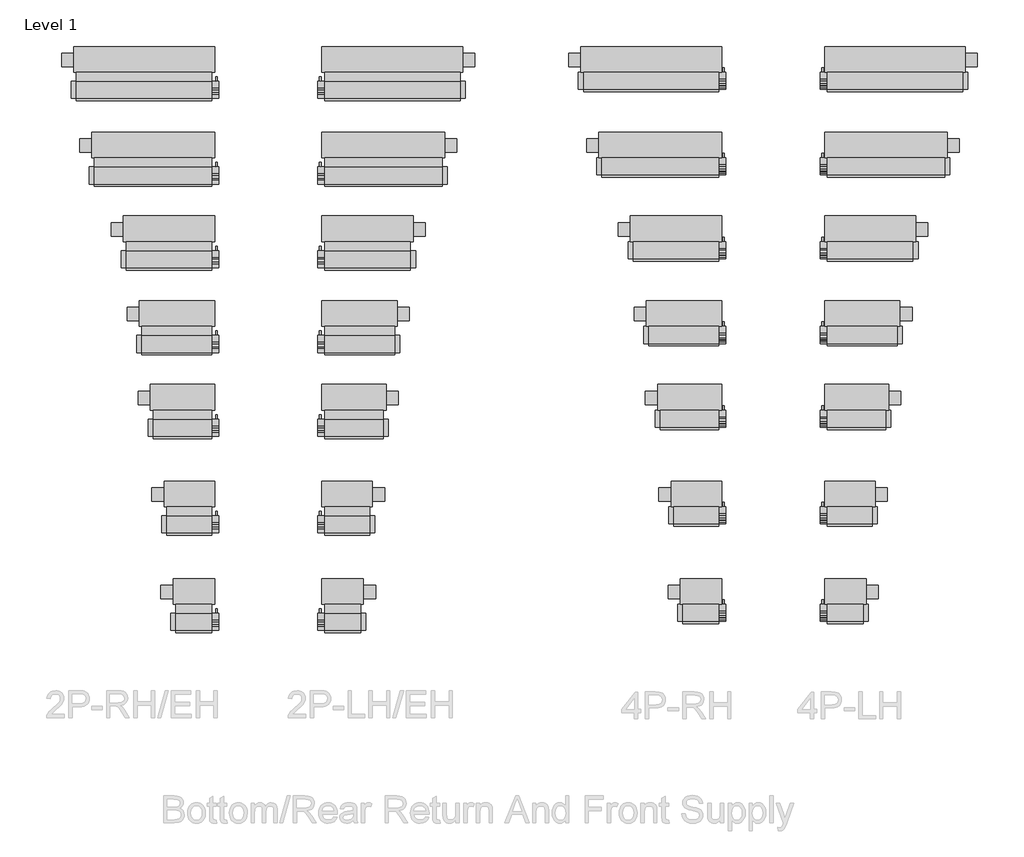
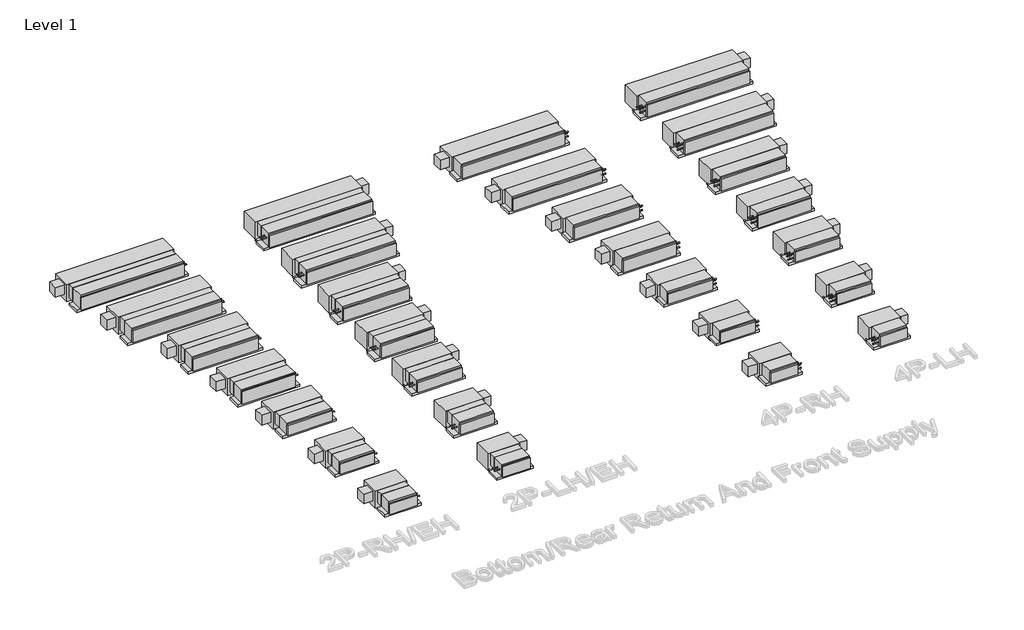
# One storey, part 1 of 3: 28 proxies.
"""IFC4 building model written with IfcOpenShell, lengths in millimetres."""

from ifc_helpers import new_model, si_unit, origin, place, context, project, spatial, transform, mapped, element, save
from components import mechanical_equipment_2c58ff9c, mechanical_equipment_dbd0a457, mechanical_equipment_982cb244, mechanical_equipment_46581fb9, mechanical_equipment_dd5e6935, mechanical_equipment_717de6e5, mechanical_equipment_81d391ec, mechanical_equipment_a687720b, mechanical_equipment_08db4194, mechanical_equipment_8c191ef6, mechanical_equipment_919ceedd, mechanical_equipment_1d446d9b, mechanical_equipment_46e83e5c, mechanical_equipment_7e0143f6, mechanical_equipment_1baa1dd7, mechanical_equipment_f801dd8a, mechanical_equipment_7525bac5, mechanical_equipment_14cabf0f, mechanical_equipment_54f2e379, mechanical_equipment_0a656818, mechanical_equipment_ed98e714, mechanical_equipment_2be2fe06, mechanical_equipment_dfb2fcc3, mechanical_equipment_8f8ee0ab, mechanical_equipment_13e381cf, mechanical_equipment_f25f2b1d, mechanical_equipment_5f8825c9, mechanical_equipment_84dba4f3

model = new_model("IFC4")

# Units and contexts
model_context = context("Model", 3, world=origin())
ifc_project = project(units=[si_unit("LENGTHUNIT", "METRE", prefix="MILLI")], contexts=[model_context])

# Site, building, storey
site = spatial("IfcSite", under=ifc_project)
building = spatial("IfcBuilding", under=site)
storey = spatial("IfcBuildingStorey", under=building, Name="Level 1", Elevation=0.0)

# Proxies
placement = place(None, origin())
mechanical_equipment_shape = mechanical_equipment_2c58ff9c(model_context)
element("IfcBuildingElementProxy", 1, Name="Concealed_Horizontal_Fan_Coil_Unit_With_Plenum_-_42CEA_-_CARRIER_-_2-Pipe_Cool-EHeat_RH_2022 : Size 02 - 277v/60Hz/1Ph - 4 Row 2.0kW", ObjectType="Concealed_Horizontal_Fan_Coil_Unit_With_Plenum_-_42CEA_-_CARRIER_-_2-Pipe_Cool-EHeat_RH_2022 : Size 02 - 277v/60Hz/1Ph - 4 Row 2.0kW", at=placement, inside=storey, context=model_context, shape_type="MappedRepresentation", body=[
    mapped(mechanical_equipment_shape, transform((-17623.5400592, 2137.0905121, 0.0), x_axis=(1.0, 0.0, 0.0), y_axis=(0.0, 1.0, 0.0), z_axis=(0.0, 0.0, 1.0))),
])
mechanical_equipment_2_shape = mechanical_equipment_dbd0a457(model_context)
element("IfcBuildingElementProxy", 2, Name="Concealed_Horizontal_Fan_Coil_Unit_With_Plenum_-_42CEA_-_CARRIER_-_2-Pipe_Cool-EHeat_RH_2022 : Size 03 - 277v/60Hz/1Ph - 4 Row 3.0kW", ObjectType="Concealed_Horizontal_Fan_Coil_Unit_With_Plenum_-_42CEA_-_CARRIER_-_2-Pipe_Cool-EHeat_RH_2022 : Size 03 - 277v/60Hz/1Ph - 4 Row 3.0kW", at=placement, inside=storey, context=model_context, shape_type="MappedRepresentation", body=[
    mapped(mechanical_equipment_2_shape, transform((-17674.3400592, 3234.3867946, 0.0), x_axis=(1.0, 0.0, 0.0), y_axis=(0.0, 1.0, 0.0), z_axis=(0.0, 0.0, 1.0))),
])
mechanical_equipment_3_shape = mechanical_equipment_982cb244(model_context)
element("IfcBuildingElementProxy", 3, Name="Concealed_Horizontal_Fan_Coil_Unit_With_Plenum_-_42CEA_-_CARRIER_-_2-Pipe_Cool-EHeat_RH_2022 : Size 04 - 277v/60Hz/1Ph - 4 Row 3.0kW", ObjectType="Concealed_Horizontal_Fan_Coil_Unit_With_Plenum_-_42CEA_-_CARRIER_-_2-Pipe_Cool-EHeat_RH_2022 : Size 04 - 277v/60Hz/1Ph - 4 Row 3.0kW", at=placement, inside=storey, context=model_context, shape_type="MappedRepresentation", body=[
    mapped(mechanical_equipment_3_shape, transform((-17750.5400592, 4321.4279718, 0.0), x_axis=(1.0, 0.0, 0.0), y_axis=(0.0, 1.0, 0.0), z_axis=(0.0, 0.0, 1.0))),
])
mechanical_equipment_4_shape = mechanical_equipment_46581fb9(model_context)
element("IfcBuildingElementProxy", 4, Name="Concealed_Horizontal_Fan_Coil_Unit_With_Plenum_-_42CEA_-_CARRIER_-_2-Pipe_Cool-EHeat_RH_2022 : Size 06 - 277v/60Hz/1Ph - 4 Row 6.0kW", ObjectType="Concealed_Horizontal_Fan_Coil_Unit_With_Plenum_-_42CEA_-_CARRIER_-_2-Pipe_Cool-EHeat_RH_2022 : Size 06 - 277v/60Hz/1Ph - 4 Row 6.0kW", at=placement, inside=storey, context=model_context, shape_type="MappedRepresentation", body=[
    mapped(mechanical_equipment_4_shape, transform((-17814.0400592, 5264.8976727, 0.0), x_axis=(1.0, 0.0, 0.0), y_axis=(0.0, 1.0, 0.0), z_axis=(0.0, 0.0, 1.0))),
])
mechanical_equipment_5_shape = mechanical_equipment_dd5e6935(model_context)
element("IfcBuildingElementProxy", 5, Name="Concealed_Horizontal_Fan_Coil_Unit_With_Plenum_-_42CEA_-_CARRIER_-_2-Pipe_Cool-EHeat_RH_2022 : Size 08 - 277v/60Hz/1Ph - 4 Row 6.0kW", ObjectType="Concealed_Horizontal_Fan_Coil_Unit_With_Plenum_-_42CEA_-_CARRIER_-_2-Pipe_Cool-EHeat_RH_2022 : Size 08 - 277v/60Hz/1Ph - 4 Row 6.0kW", at=placement, inside=storey, context=model_context, shape_type="MappedRepresentation", body=[
    mapped(mechanical_equipment_5_shape, transform((-17902.9400592, 6218.622479, 0.0), x_axis=(1.0, 0.0, 0.0), y_axis=(0.0, 1.0, 0.0), z_axis=(0.0, 0.0, 1.0))),
])
mechanical_equipment_6_shape = mechanical_equipment_717de6e5(model_context)
element("IfcBuildingElementProxy", 6, Name="Concealed_Horizontal_Fan_Coil_Unit_With_Plenum_-_42CEA_-_CARRIER_-_2-Pipe_Cool-EHeat_RH_2022 : Size 10 - 277v/60Hz/1Ph - 4 Row 8.0kW", ObjectType="Concealed_Horizontal_Fan_Coil_Unit_With_Plenum_-_42CEA_-_CARRIER_-_2-Pipe_Cool-EHeat_RH_2022 : Size 10 - 277v/60Hz/1Ph - 4 Row 8.0kW", at=placement, inside=storey, context=model_context, shape_type="MappedRepresentation", body=[
    mapped(mechanical_equipment_6_shape, transform((-18080.7400592, 7162.0921799, 0.0), x_axis=(1.0, 0.0, 0.0), y_axis=(0.0, 1.0, 0.0), z_axis=(0.0, 0.0, 1.0))),
])
mechanical_equipment_7_shape = mechanical_equipment_81d391ec(model_context)
element("IfcBuildingElementProxy", 7, Name="Concealed_Horizontal_Fan_Coil_Unit_With_Plenum_-_42CEA_-_CARRIER_-_2-Pipe_Cool-EHeat_RH_2022 : Size 12 - 277v/60Hz/1Ph - 4 Row 10.0kW", ObjectType="Concealed_Horizontal_Fan_Coil_Unit_With_Plenum_-_42CEA_-_CARRIER_-_2-Pipe_Cool-EHeat_RH_2022 : Size 12 - 277v/60Hz/1Ph - 4 Row 10.0kW", at=placement, inside=storey, context=model_context, shape_type="MappedRepresentation", body=[
    mapped(mechanical_equipment_7_shape, transform((-18182.3400592, 8125.1210373, 0.0), x_axis=(1.0, 0.0, 0.0), y_axis=(0.0, 1.0, 0.0), z_axis=(0.0, 0.0, 1.0))),
])
mechanical_equipment_8_shape = mechanical_equipment_a687720b(model_context)
element("IfcBuildingElementProxy", 8, Name="Concealed_Horizontal_Fan_Coil_Unit_With_Plenum_-_42CEA_-_CARRIER_-_4-Pipe_RH_2022 : Size 02 - 277v/60Hz/1Ph - 4/1 Coil", ObjectType="Concealed_Horizontal_Fan_Coil_Unit_With_Plenum_-_42CEA_-_CARRIER_-_4-Pipe_RH_2022 : Size 02 - 277v/60Hz/1Ph - 4/1 Coil", at=placement, inside=storey, context=model_context, shape_type="MappedRepresentation", body=[
    mapped(mechanical_equipment_8_shape, transform((-11916.0045416, 2238.6905121, 0.0), x_axis=(1.0, 0.0, 0.0), y_axis=(0.0, 1.0, 0.0), z_axis=(0.0, 0.0, 1.0))),
])
mechanical_equipment_9_shape = mechanical_equipment_08db4194(model_context)
element("IfcBuildingElementProxy", 9, Name="Concealed_Horizontal_Fan_Coil_Unit_With_Plenum_-_42CEA_-_CARRIER_-_4-Pipe_RH_2022 : Size 03 - 277v/60Hz/1Ph - 4/1 Coil", ObjectType="Concealed_Horizontal_Fan_Coil_Unit_With_Plenum_-_42CEA_-_CARRIER_-_4-Pipe_RH_2022 : Size 03 - 277v/60Hz/1Ph - 4/1 Coil", at=placement, inside=storey, context=model_context, shape_type="MappedRepresentation", body=[
    mapped(mechanical_equipment_9_shape, transform((-11966.8045416, 3335.9867946, 0.0), x_axis=(1.0, 0.0, 0.0), y_axis=(0.0, 1.0, 0.0), z_axis=(0.0, 0.0, 1.0))),
])
mechanical_equipment_10_shape = mechanical_equipment_8c191ef6(model_context)
element("IfcBuildingElementProxy", 10, Name="Concealed_Horizontal_Fan_Coil_Unit_With_Plenum_-_42CEA_-_CARRIER_-_4-Pipe_RH_2022 : Size 04 - 277v/60Hz/1Ph - 4/1 Coil", ObjectType="Concealed_Horizontal_Fan_Coil_Unit_With_Plenum_-_42CEA_-_CARRIER_-_4-Pipe_RH_2022 : Size 04 - 277v/60Hz/1Ph - 4/1 Coil", at=placement, inside=storey, context=model_context, shape_type="MappedRepresentation", body=[
    mapped(mechanical_equipment_10_shape, transform((-12043.0045416, 4423.0279718, 0.0), x_axis=(1.0, 0.0, 0.0), y_axis=(0.0, 1.0, 0.0), z_axis=(0.0, 0.0, 1.0))),
])
mechanical_equipment_11_shape = mechanical_equipment_919ceedd(model_context)
element("IfcBuildingElementProxy", 11, Name="Concealed_Horizontal_Fan_Coil_Unit_With_Plenum_-_42CEA_-_CARRIER_-_4-Pipe_RH_2022 : Size 06 - 277v/60Hz/1Ph - 4/1 Coil", ObjectType="Concealed_Horizontal_Fan_Coil_Unit_With_Plenum_-_42CEA_-_CARRIER_-_4-Pipe_RH_2022 : Size 06 - 277v/60Hz/1Ph - 4/1 Coil", at=placement, inside=storey, context=model_context, shape_type="MappedRepresentation", body=[
    mapped(mechanical_equipment_11_shape, transform((-12106.5045416, 5366.4976727, 0.0), x_axis=(1.0, 0.0, 0.0), y_axis=(0.0, 1.0, 0.0), z_axis=(0.0, 0.0, 1.0))),
])
mechanical_equipment_12_shape = mechanical_equipment_1d446d9b(model_context)
element("IfcBuildingElementProxy", 12, Name="Concealed_Horizontal_Fan_Coil_Unit_With_Plenum_-_42CEA_-_CARRIER_-_4-Pipe_RH_2022 : Size 08 - 277v/60Hz/1Ph - 4/1 Coil", ObjectType="Concealed_Horizontal_Fan_Coil_Unit_With_Plenum_-_42CEA_-_CARRIER_-_4-Pipe_RH_2022 : Size 08 - 277v/60Hz/1Ph - 4/1 Coil", at=placement, inside=storey, context=model_context, shape_type="MappedRepresentation", body=[
    mapped(mechanical_equipment_12_shape, transform((-12195.4045416, 6320.222479, 0.0), x_axis=(1.0, 0.0, 0.0), y_axis=(0.0, 1.0, 0.0), z_axis=(0.0, 0.0, 1.0))),
])
mechanical_equipment_13_shape = mechanical_equipment_46e83e5c(model_context)
element("IfcBuildingElementProxy", 13, Name="Concealed_Horizontal_Fan_Coil_Unit_With_Plenum_-_42CEA_-_CARRIER_-_4-Pipe_RH_2022 : Size 10 - 277v/60Hz/1Ph - 4/1 Coil", ObjectType="Concealed_Horizontal_Fan_Coil_Unit_With_Plenum_-_42CEA_-_CARRIER_-_4-Pipe_RH_2022 : Size 10 - 277v/60Hz/1Ph - 4/1 Coil", at=placement, inside=storey, context=model_context, shape_type="MappedRepresentation", body=[
    mapped(mechanical_equipment_13_shape, transform((-12373.2045416, 7263.6921799, 0.0), x_axis=(1.0, 0.0, 0.0), y_axis=(0.0, 1.0, 0.0), z_axis=(0.0, 0.0, 1.0))),
])
mechanical_equipment_14_shape = mechanical_equipment_7e0143f6(model_context)
element("IfcBuildingElementProxy", 14, Name="Concealed_Horizontal_Fan_Coil_Unit_With_Plenum_-_42CEA_-_CARRIER_-_4-Pipe_RH_2022 : Size 12 - 277v/60Hz/1Ph - 4/1 Coil", ObjectType="Concealed_Horizontal_Fan_Coil_Unit_With_Plenum_-_42CEA_-_CARRIER_-_4-Pipe_RH_2022 : Size 12 - 277v/60Hz/1Ph - 4/1 Coil", at=placement, inside=storey, context=model_context, shape_type="MappedRepresentation", body=[
    mapped(mechanical_equipment_14_shape, transform((-12474.8045416, 8226.7210373, 0.0), x_axis=(1.0, 0.0, 0.0), y_axis=(0.0, 1.0, 0.0), z_axis=(0.0, 0.0, 1.0))),
])
mechanical_equipment_15_shape = mechanical_equipment_1baa1dd7(model_context)
element("IfcBuildingElementProxy", 15, Name="Concealed_Horizontal_Fan_Coil_Unit_With_Plenum_-_42CEA_-_CARRIER_-_2-Pipe_Cool-EHeat_LH_2022 : Size 02 - 277v/60Hz/1Ph - 4 Row 2.0kW", ObjectType="Concealed_Horizontal_Fan_Coil_Unit_With_Plenum_-_42CEA_-_CARRIER_-_2-Pipe_Cool-EHeat_LH_2022 : Size 02 - 277v/60Hz/1Ph - 4 Row 2.0kW", at=placement, inside=storey, context=model_context, shape_type="MappedRepresentation", body=[
    mapped(mechanical_equipment_15_shape, transform((-15947.1400592, 2137.0905121, 0.0), x_axis=(1.0, 0.0, 0.0), y_axis=(0.0, 1.0, 0.0), z_axis=(0.0, 0.0, 1.0))),
])
mechanical_equipment_16_shape = mechanical_equipment_f801dd8a(model_context)
element("IfcBuildingElementProxy", 16, Name="Concealed_Horizontal_Fan_Coil_Unit_With_Plenum_-_42CEA_-_CARRIER_-_2-Pipe_Cool-EHeat_LH_2022 : Size 03 - 277v/60Hz/1Ph - 4 Row 3.0kW", ObjectType="Concealed_Horizontal_Fan_Coil_Unit_With_Plenum_-_42CEA_-_CARRIER_-_2-Pipe_Cool-EHeat_LH_2022 : Size 03 - 277v/60Hz/1Ph - 4 Row 3.0kW", at=placement, inside=storey, context=model_context, shape_type="MappedRepresentation", body=[
    mapped(mechanical_equipment_16_shape, transform((-15896.3400592, 3234.3867946, 0.0), x_axis=(1.0, 0.0, 0.0), y_axis=(0.0, 1.0, 0.0), z_axis=(0.0, 0.0, 1.0))),
])
mechanical_equipment_17_shape = mechanical_equipment_7525bac5(model_context)
element("IfcBuildingElementProxy", 17, Name="Concealed_Horizontal_Fan_Coil_Unit_With_Plenum_-_42CEA_-_CARRIER_-_2-Pipe_Cool-EHeat_LH_2022 : Size 04 - 277v/60Hz/1Ph - 4 Row 3.0kW", ObjectType="Concealed_Horizontal_Fan_Coil_Unit_With_Plenum_-_42CEA_-_CARRIER_-_2-Pipe_Cool-EHeat_LH_2022 : Size 04 - 277v/60Hz/1Ph - 4 Row 3.0kW", at=placement, inside=storey, context=model_context, shape_type="MappedRepresentation", body=[
    mapped(mechanical_equipment_17_shape, transform((-15820.1400592, 4321.4279718, 0.0), x_axis=(1.0, 0.0, 0.0), y_axis=(0.0, 1.0, 0.0), z_axis=(0.0, 0.0, 1.0))),
])
mechanical_equipment_18_shape = mechanical_equipment_14cabf0f(model_context)
element("IfcBuildingElementProxy", 18, Name="Concealed_Horizontal_Fan_Coil_Unit_With_Plenum_-_42CEA_-_CARRIER_-_2-Pipe_Cool-EHeat_LH_2022 : Size 06 - 277v/60Hz/1Ph - 4 Row 6.0kW", ObjectType="Concealed_Horizontal_Fan_Coil_Unit_With_Plenum_-_42CEA_-_CARRIER_-_2-Pipe_Cool-EHeat_LH_2022 : Size 06 - 277v/60Hz/1Ph - 4 Row 6.0kW", at=placement, inside=storey, context=model_context, shape_type="MappedRepresentation", body=[
    mapped(mechanical_equipment_18_shape, transform((-15756.6400592, 5264.8976727, 0.0), x_axis=(1.0, 0.0, 0.0), y_axis=(0.0, 1.0, 0.0), z_axis=(0.0, 0.0, 1.0))),
])
mechanical_equipment_19_shape = mechanical_equipment_54f2e379(model_context)
element("IfcBuildingElementProxy", 19, Name="Concealed_Horizontal_Fan_Coil_Unit_With_Plenum_-_42CEA_-_CARRIER_-_2-Pipe_Cool-EHeat_LH_2022 : Size 08 - 277v/60Hz/1Ph - 4 Row 6.0kW", ObjectType="Concealed_Horizontal_Fan_Coil_Unit_With_Plenum_-_42CEA_-_CARRIER_-_2-Pipe_Cool-EHeat_LH_2022 : Size 08 - 277v/60Hz/1Ph - 4 Row 6.0kW", at=placement, inside=storey, context=model_context, shape_type="MappedRepresentation", body=[
    mapped(mechanical_equipment_19_shape, transform((-15667.7400592, 6218.622479, 0.0), x_axis=(1.0, 0.0, 0.0), y_axis=(0.0, 1.0, 0.0), z_axis=(0.0, 0.0, 1.0))),
])
mechanical_equipment_20_shape = mechanical_equipment_0a656818(model_context)
element("IfcBuildingElementProxy", 20, Name="Concealed_Horizontal_Fan_Coil_Unit_With_Plenum_-_42CEA_-_CARRIER_-_2-Pipe_Cool-EHeat_LH_2022 : Size 10 - 277v/60Hz/1Ph - 4 Row 8.0kW", ObjectType="Concealed_Horizontal_Fan_Coil_Unit_With_Plenum_-_42CEA_-_CARRIER_-_2-Pipe_Cool-EHeat_LH_2022 : Size 10 - 277v/60Hz/1Ph - 4 Row 8.0kW", at=placement, inside=storey, context=model_context, shape_type="MappedRepresentation", body=[
    mapped(mechanical_equipment_20_shape, transform((-15489.9400592, 7162.0921799, 0.0), x_axis=(1.0, 0.0, 0.0), y_axis=(0.0, 1.0, 0.0), z_axis=(0.0, 0.0, 1.0))),
])
mechanical_equipment_21_shape = mechanical_equipment_ed98e714(model_context)
element("IfcBuildingElementProxy", 21, Name="Concealed_Horizontal_Fan_Coil_Unit_With_Plenum_-_42CEA_-_CARRIER_-_2-Pipe_Cool-EHeat_LH_2022 : Size 12 - 277v/60Hz/1Ph - 4 Row 10.0kW", ObjectType="Concealed_Horizontal_Fan_Coil_Unit_With_Plenum_-_42CEA_-_CARRIER_-_2-Pipe_Cool-EHeat_LH_2022 : Size 12 - 277v/60Hz/1Ph - 4 Row 10.0kW", at=placement, inside=storey, context=model_context, shape_type="MappedRepresentation", body=[
    mapped(mechanical_equipment_21_shape, transform((-15388.3400592, 8125.1210373, 0.0), x_axis=(1.0, 0.0, 0.0), y_axis=(0.0, 1.0, 0.0), z_axis=(0.0, 0.0, 1.0))),
])
mechanical_equipment_22_shape = mechanical_equipment_2be2fe06(model_context)
element("IfcBuildingElementProxy", 22, Name="Concealed_Horizontal_Fan_Coil_Unit_With_Plenum_-_42CEA_-_CARRIER_-_4-Pipe_LH_2022 : Size 02 - 277v/60Hz/1Ph - 4/1 Coil", ObjectType="Concealed_Horizontal_Fan_Coil_Unit_With_Plenum_-_42CEA_-_CARRIER_-_4-Pipe_LH_2022 : Size 02 - 277v/60Hz/1Ph - 4/1 Coil", at=placement, inside=storey, context=model_context, shape_type="MappedRepresentation", body=[
    mapped(mechanical_equipment_22_shape, transform((-10290.4045416, 2238.6905121, 0.0), x_axis=(1.0, 0.0, 0.0), y_axis=(0.0, 1.0, 0.0), z_axis=(0.0, 0.0, 1.0))),
])
mechanical_equipment_23_shape = mechanical_equipment_dfb2fcc3(model_context)
element("IfcBuildingElementProxy", 23, Name="Concealed_Horizontal_Fan_Coil_Unit_With_Plenum_-_42CEA_-_CARRIER_-_4-Pipe_LH_2022 : Size 03 - 277v/60Hz/1Ph - 4/1 Coil", ObjectType="Concealed_Horizontal_Fan_Coil_Unit_With_Plenum_-_42CEA_-_CARRIER_-_4-Pipe_LH_2022 : Size 03 - 277v/60Hz/1Ph - 4/1 Coil", at=placement, inside=storey, context=model_context, shape_type="MappedRepresentation", body=[
    mapped(mechanical_equipment_23_shape, transform((-10239.6045416, 3335.9867946, 0.0), x_axis=(1.0, 0.0, 0.0), y_axis=(0.0, 1.0, 0.0), z_axis=(0.0, 0.0, 1.0))),
])
mechanical_equipment_24_shape = mechanical_equipment_8f8ee0ab(model_context)
element("IfcBuildingElementProxy", 24, Name="Concealed_Horizontal_Fan_Coil_Unit_With_Plenum_-_42CEA_-_CARRIER_-_4-Pipe_LH_2022 : Size 04 - 277v/60Hz/1Ph - 4/1 Coil", ObjectType="Concealed_Horizontal_Fan_Coil_Unit_With_Plenum_-_42CEA_-_CARRIER_-_4-Pipe_LH_2022 : Size 04 - 277v/60Hz/1Ph - 4/1 Coil", at=placement, inside=storey, context=model_context, shape_type="MappedRepresentation", body=[
    mapped(mechanical_equipment_24_shape, transform((-10163.4045416, 4423.0279718, 0.0), x_axis=(1.0, 0.0, 0.0), y_axis=(0.0, 1.0, 0.0), z_axis=(0.0, 0.0, 1.0))),
])
mechanical_equipment_25_shape = mechanical_equipment_13e381cf(model_context)
element("IfcBuildingElementProxy", 25, Name="Concealed_Horizontal_Fan_Coil_Unit_With_Plenum_-_42CEA_-_CARRIER_-_4-Pipe_LH_2022 : Size 06 - 277v/60Hz/1Ph - 4/1 Coil", ObjectType="Concealed_Horizontal_Fan_Coil_Unit_With_Plenum_-_42CEA_-_CARRIER_-_4-Pipe_LH_2022 : Size 06 - 277v/60Hz/1Ph - 4/1 Coil", at=placement, inside=storey, context=model_context, shape_type="MappedRepresentation", body=[
    mapped(mechanical_equipment_25_shape, transform((-10099.9045416, 5366.4976727, 0.0), x_axis=(1.0, 0.0, 0.0), y_axis=(0.0, 1.0, 0.0), z_axis=(0.0, 0.0, 1.0))),
])
mechanical_equipment_26_shape = mechanical_equipment_f25f2b1d(model_context)
element("IfcBuildingElementProxy", 26, Name="Concealed_Horizontal_Fan_Coil_Unit_With_Plenum_-_42CEA_-_CARRIER_-_4-Pipe_LH_2022 : Size 08 - 277v/60Hz/1Ph - 4/1 Coil", ObjectType="Concealed_Horizontal_Fan_Coil_Unit_With_Plenum_-_42CEA_-_CARRIER_-_4-Pipe_LH_2022 : Size 08 - 277v/60Hz/1Ph - 4/1 Coil", at=placement, inside=storey, context=model_context, shape_type="MappedRepresentation", body=[
    mapped(mechanical_equipment_26_shape, transform((-10011.0045416, 6320.222479, 0.0), x_axis=(1.0, 0.0, 0.0), y_axis=(0.0, 1.0, 0.0), z_axis=(0.0, 0.0, 1.0))),
])
mechanical_equipment_27_shape = mechanical_equipment_5f8825c9(model_context)
element("IfcBuildingElementProxy", 27, Name="Concealed_Horizontal_Fan_Coil_Unit_With_Plenum_-_42CEA_-_CARRIER_-_4-Pipe_LH_2022 : Size 10 - 277v/60Hz/1Ph - 4/1 Coil", ObjectType="Concealed_Horizontal_Fan_Coil_Unit_With_Plenum_-_42CEA_-_CARRIER_-_4-Pipe_LH_2022 : Size 10 - 277v/60Hz/1Ph - 4/1 Coil", at=placement, inside=storey, context=model_context, shape_type="MappedRepresentation", body=[
    mapped(mechanical_equipment_27_shape, transform((-9833.2045416, 7263.6921799, 0.0), x_axis=(1.0, 0.0, 0.0), y_axis=(0.0, 1.0, 0.0), z_axis=(0.0, 0.0, 1.0))),
])
mechanical_equipment_28_shape = mechanical_equipment_84dba4f3(model_context)
element("IfcBuildingElementProxy", 28, Name="Concealed_Horizontal_Fan_Coil_Unit_With_Plenum_-_42CEA_-_CARRIER_-_4-Pipe_LH_2022 : Size 12 - 277v/60Hz/1Ph - 4/1 Coil", ObjectType="Concealed_Horizontal_Fan_Coil_Unit_With_Plenum_-_42CEA_-_CARRIER_-_4-Pipe_LH_2022 : Size 12 - 277v/60Hz/1Ph - 4/1 Coil", at=placement, inside=storey, context=model_context, shape_type="MappedRepresentation", body=[
    mapped(mechanical_equipment_28_shape, transform((-9731.6045416, 8226.7210373, 0.0), x_axis=(1.0, 0.0, 0.0), y_axis=(0.0, 1.0, 0.0), z_axis=(0.0, 0.0, 1.0))),
])

save(model, "model.ifc")
